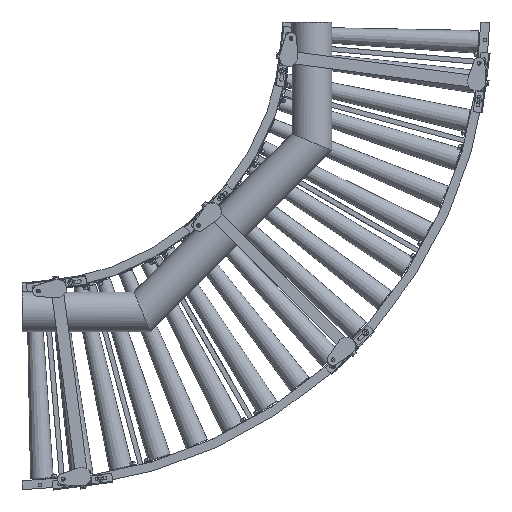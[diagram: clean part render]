
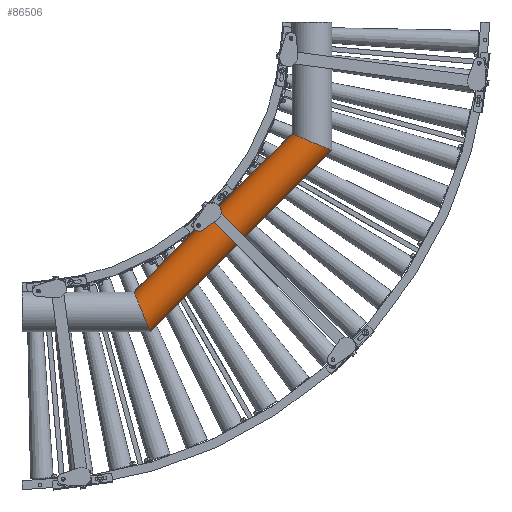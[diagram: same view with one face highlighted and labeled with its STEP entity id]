
A CAD part, front view. The second image highlights one B-rep face of the part: STEP entity #86506.
In plain terms, the highlighted cylindrical face has radius 67.024 mm (diameter 134.048 mm), a partial arc.
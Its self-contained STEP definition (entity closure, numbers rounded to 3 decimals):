
#2241 = DIRECTION ( 'NONE',  ( -0.707, 0., 0.707 ) ) ;
#3162 = VERTEX_POINT ( 'NONE', #97874 ) ;
#16771 = CARTESIAN_POINT ( 'NONE',  ( 428.017, -166.5, -1033.3 ) ) ;
#20928 = CARTESIAN_POINT ( 'NONE',  ( 900.7, -166.5, -373.092 ) ) ;
#25238 = CARTESIAN_POINT ( 'NONE',  ( 915.73, -267.933, -379.317 ) ) ;
#31606 = CARTESIAN_POINT ( 'NONE',  ( 379.317, -267.933, -915.73 ) ) ;
#33513 = ORIENTED_EDGE ( 'NONE', *, *, #65847, .F. ) ;
#34876 = VERTEX_POINT ( 'NONE', #160473 ) ;
#42902 = ORIENTED_EDGE ( 'NONE', *, *, #137655, .T. ) ;
#53684 =( BOUNDED_CURVE ( )  B_SPLINE_CURVE ( 3, ( #16771, #112026, #31606, #143085 ),
 .UNSPECIFIED., .F., .F. ) 
 B_SPLINE_CURVE_WITH_KNOTS ( ( 4, 4 ),
 ( 0.147, 2.994 ),
 .UNSPECIFIED. ) 
 CURVE ( )  GEOMETRIC_REPRESENTATION_ITEM ( )  RATIONAL_B_SPLINE_CURVE ( ( 1., 0.431, 0.431, 1. ) ) 
 REPRESENTATION_ITEM ( '' )  );
#62699 = FACE_OUTER_BOUND ( 'NONE', #175151, .T. ) ;
#65847 = EDGE_CURVE ( 'NONE', #34876, #110716, #91156, .T. ) ;
#65941 = CARTESIAN_POINT ( 'NONE',  ( 1033.3, -166.5, -428.017 ) ) ;
#67784 = CARTESIAN_POINT ( 'NONE',  ( 939.538, -166.5, -334.254 ) ) ;
#68447 = DIRECTION ( 'NONE',  ( -0.707, 0., -0.707 ) ) ;
#73253 = CYLINDRICAL_SURFACE ( 'NONE', #78335, 67.024 ) ;
#78335 = AXIS2_PLACEMENT_3D ( 'NONE', #124343, #68447, #2241 ) ;
#81881 = VECTOR ( 'NONE', #95647, 1000. ) ;
#84328 = ORIENTED_EDGE ( 'NONE', *, *, #119980, .T. ) ;
#86506 = ADVANCED_FACE ( 'NONE', ( #62699 ), #73253, .T. ) ;
#91156 = LINE ( 'NONE', #65941, #106041 ) ;
#92416 = VERTEX_POINT ( 'NONE', #20928 ) ;
#95647 = DIRECTION ( 'NONE',  ( -0.707, 0., -0.707 ) ) ;
#96798 = LINE ( 'NONE', #67784, #81881 ) ;
#97327 =( BOUNDED_CURVE ( )  B_SPLINE_CURVE ( 3, ( #106235, #106813, #25238, #175960 ),
 .UNSPECIFIED., .F., .F. ) 
 B_SPLINE_CURVE_WITH_KNOTS ( ( 4, 4 ),
 ( 0.147, 2.994 ),
 .UNSPECIFIED. ) 
 CURVE ( )  GEOMETRIC_REPRESENTATION_ITEM ( )  RATIONAL_B_SPLINE_CURVE ( ( 1., 0.431, 0.431, 1. ) ) 
 REPRESENTATION_ITEM ( '' )  );
#97874 = CARTESIAN_POINT ( 'NONE',  ( 373.092, -166.5, -900.7 ) ) ;
#106041 = VECTOR ( 'NONE', #123040, 1000. ) ;
#106235 = CARTESIAN_POINT ( 'NONE',  ( 1033.3, -166.5, -428.017 ) ) ;
#106813 = CARTESIAN_POINT ( 'NONE',  ( 1018.27, -267.933, -421.791 ) ) ;
#110716 = VERTEX_POINT ( 'NONE', #142424 ) ;
#112026 = CARTESIAN_POINT ( 'NONE',  ( 421.791, -267.933, -1018.27 ) ) ;
#119980 = EDGE_CURVE ( 'NONE', #34876, #92416, #97327, .T. ) ;
#123040 = DIRECTION ( 'NONE',  ( -0.707, 0., -0.707 ) ) ;
#123271 = EDGE_CURVE ( 'NONE', #110716, #3162, #53684, .T. ) ;
#124343 = CARTESIAN_POINT ( 'NONE',  ( 986.419, -156.676, -381.135 ) ) ;
#137655 = EDGE_CURVE ( 'NONE', #92416, #3162, #96798, .T. ) ;
#142424 = CARTESIAN_POINT ( 'NONE',  ( 428.017, -166.5, -1033.3 ) ) ;
#143085 = CARTESIAN_POINT ( 'NONE',  ( 373.092, -166.5, -900.7 ) ) ;
#160137 = ORIENTED_EDGE ( 'NONE', *, *, #123271, .F. ) ;
#160473 = CARTESIAN_POINT ( 'NONE',  ( 1033.3, -166.5, -428.017 ) ) ;
#175151 = EDGE_LOOP ( 'NONE', ( #33513, #84328, #42902, #160137 ) ) ;
#175960 = CARTESIAN_POINT ( 'NONE',  ( 900.7, -166.5, -373.092 ) ) ;
